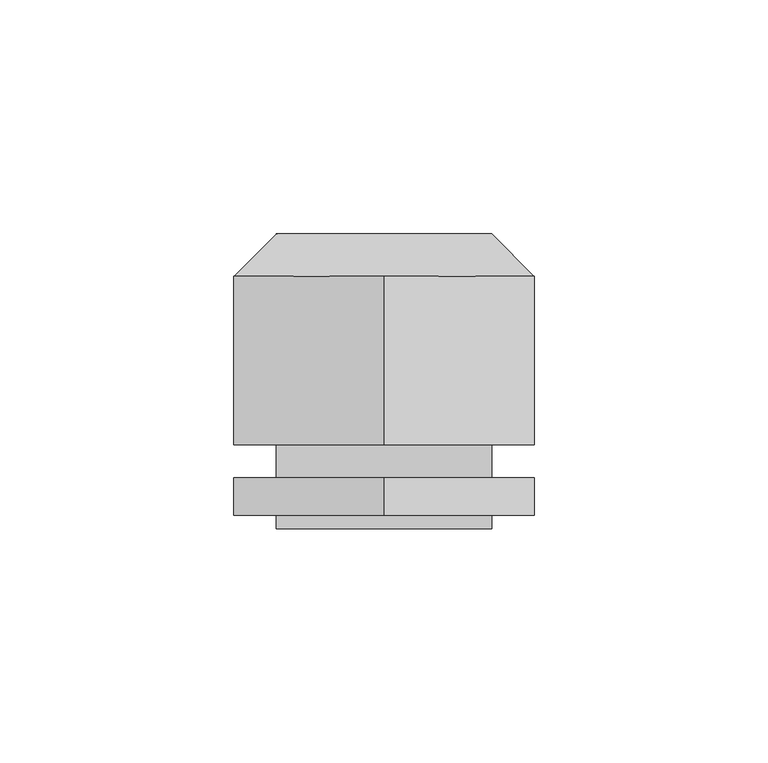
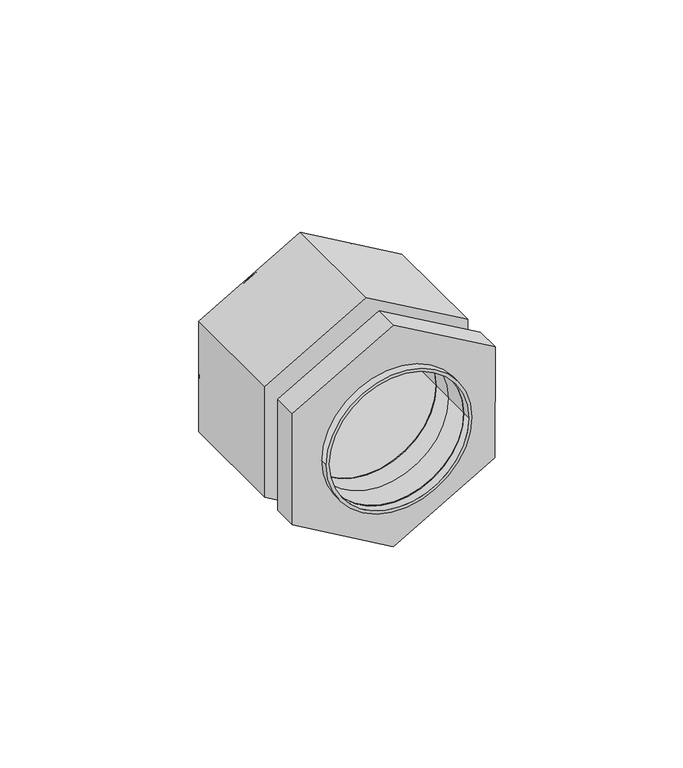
"""IFC4 building model written with IfcOpenShell, lengths in millimetres: cable carrier fitting geometry, Сальник_PGL_D_11-48_IP54 : Сальник PG 36 диаметр проводника 22-32мм IP54."""

from ifc_helpers import new_model, si_unit, point, frame, frame_2d, origin, place, context, project, spatial, polyline, circle_curve, trimmed, segment, composite_curve, outline, extrude, source, transform, mapped, element, save
from ifc_brep_helpers import plane_surface, revolved_surface, advanced_brep


def cable_carrier_fitting_edccf83d(model_context):
    return source(origin(), model_context, "Body", "SolidModel", [
        advanced_brep(
        [(-21.9094864, 0.0, 0.0057257), (-21.9094864, -9.0, 0.0057257), (22.0905136, -9.0, 0.0057257), (22.0905136, 0.0, 0.0057257), (-31.9010286, -9.0, 0.0), (32.0989714, -9.0, 0.0), (-22.9010286, 0.0, 0.0), (23.0989714, 0.0, 0.0)],
        [
            (0, 1),
            (1, 2, circle_curve(frame((0.0905136, -9.0, 0.0057257), z_axis=(0.0, -1.0, 0.0), x_axis=(1.0, 0.0, 0.0)), 22.0)),
            (2, 3),
            (3, 0, circle_curve(frame((0.0905136, 0.0, 0.0057257), z_axis=(0.0, 1.0, 0.0), x_axis=(1.0, 0.0, 0.0)), 22.0)),
            (0, 3, circle_curve(frame((0.0905136, 0.0, 0.0057257), z_axis=(0.0, 1.0, 0.0), x_axis=(1.0, 0.0, 0.0)), 22.0)),
            (2, 1, circle_curve(frame((0.0905136, -9.0, 0.0057257), z_axis=(0.0, -1.0, 0.0), x_axis=(1.0, 0.0, 0.0)), 22.0)),
            (4, 5, circle_curve(frame((0.0989714, -9.0, 0.0), z_axis=(0.0, -1.0, 0.0), x_axis=(-1.0, 0.0, 0.0)), 32.0)),
            (5, 4, circle_curve(frame((0.0989714, -9.0, 0.0), z_axis=(0.0, -1.0, 0.0), x_axis=(1.0, 0.0, 0.0)), 32.0)),
            (6, 7, circle_curve(frame((0.0989714, 0.0, 0.0), z_axis=(0.0, 1.0, 0.0), x_axis=(1.0, 0.0, 0.0)), 23.0)),
            (7, 6, circle_curve(frame((0.0989714, 0.0, 0.0), z_axis=(0.0, 1.0, 0.0), x_axis=(-1.0, 0.0, 0.0)), 23.0)),
            (4, 6),
            (7, 5),
        ],
        [
            revolved_surface(polyline([(22.0905136, -9.0, 0.0057257), (22.0905136, 0.0, 0.0057257)]), (0.0905136, 9.180646, 0.0057257), (0.0, -1.0, 0.0)),
            plane_surface(frame((0.0989714, -9.0, 0.0), z_axis=(0.0, -1.0, 0.0), x_axis=(0.0, 0.0, -1.0))),
            plane_surface(frame((0.0989714, 0.0, 0.0), z_axis=(0.0, 1.0, 0.0), x_axis=(0.0, 0.0, -1.0))),
            revolved_surface(polyline([(23.0989714, 0.0, 0.0), (32.0989714, -9.0, 0.0)]), (0.0989714, 23.0, 0.0), (0.0, -1.0, 0.0)),
            revolved_surface(polyline([(-22.9010286, 0.0, 0.0), (-31.9010286, -9.0, 0.0)]), (0.0989714, 23.0, 0.0), (0.0, -1.0, 0.0)),
        ],
        [
            (0, [[1, 2, 3, 4]]),
            (0, [[-1, 5, -3, 6]]),
            (1, [[7, 8], [-2, -6]]),
            (2, [[9, 10], [-4, -5]]),
            (3, [[-7, 11, -10, 12]]),
            (4, [[-8, -12, -9, -11]]),
        ],
    ),
        extrude(outline(polyline([(-18.4279687, 32.0), (18.5718076, 32.1286479), (37.0348318, 0.0643883), (18.5720313, -32.0), (-18.4279687, -32.0), (-37.0021443, 0.0), (-18.4279687, 32.0)]), holes=[composite_curve([segment(trimmed(circle_curve(frame_2d((0.0057257, 0.0905136)), 22.0), [point((0.0057257, 22.0905136))], [point((0.0057257, -21.9094864))], True, "CARTESIAN"), True, "CONTINUOUS"), segment(trimmed(circle_curve(frame_2d((0.0057257, 0.0905136)), 22.0), [point((0.0057257, -21.9094864))], [point((0.0057257, 22.0905136))], True, "CARTESIAN"), True, "CONTINUOUS")], self_intersect=False)]), frame((0.0, -45.0, 0.0), z_axis=(0.0, 1.0, 0.0), x_axis=(0.0, 0.0, 1.0)), (0.0, 0.0, 1.0), 36.0),
        extrude(outline(polyline([(-18.4279687, 32.0), (18.5718076, 32.1286479), (37.0348318, 0.0643883), (18.5720313, -32.0), (-18.4279687, -32.0), (-37.0021443, 0.0), (-18.4279687, 32.0)]), holes=[composite_curve([segment(trimmed(circle_curve(frame_2d((0.0057257, 0.0905136)), 22.0), [point((0.0057257, 22.0905136))], [point((0.0057257, -21.9094864))], True, "CARTESIAN"), True, "CONTINUOUS"), segment(trimmed(circle_curve(frame_2d((0.0057257, 0.0905136)), 22.0), [point((0.0057257, -21.9094864))], [point((0.0057257, 22.0905136))], True, "CARTESIAN"), True, "CONTINUOUS")], self_intersect=False)]), frame((0.0, -60.1018563, 0.0), z_axis=(0.0, 1.0, 0.0), x_axis=(0.0, 0.0, 1.0)), (0.0, 0.0, 1.0), 8.0),
        extrude(outline(composite_curve([segment(trimmed(circle_curve(frame_2d((0.0032191, 0.0900025)), 23.0), [point((0.0032191, -22.9099975))], [point((0.0032191, 23.0900025))], False, "CARTESIAN"), True, "CONTINUOUS"), segment(trimmed(circle_curve(frame_2d((0.0032191, 0.0900025)), 23.0), [point((0.0032191, 23.0900025))], [point((0.0032191, -22.9099975))], False, "CARTESIAN"), True, "CONTINUOUS")], self_intersect=False), holes=[composite_curve([segment(trimmed(circle_curve(frame_2d((0.0057257, 0.0905136)), 22.0), [point((0.0057257, 22.0905136))], [point((0.0057257, -21.9094864))], True, "CARTESIAN"), True, "CONTINUOUS"), segment(trimmed(circle_curve(frame_2d((0.0057257, 0.0905136)), 22.0), [point((0.0057257, -21.9094864))], [point((0.0057257, 22.0905136))], True, "CARTESIAN"), True, "CONTINUOUS")], self_intersect=False)]), frame((0.0, -63.0, 0.0), z_axis=(0.0, 1.0, 0.0), x_axis=(0.0, 0.0, 1.0)), (0.0, 0.0, 1.0), 63.0),
    ])


if __name__ == "__main__":
    model = new_model("IFC4")
    model_context = context("Model", 3, world=origin())
    ifc_project = project(units=[si_unit("LENGTHUNIT", "METRE", prefix="MILLI")], contexts=[model_context])
    site = spatial("IfcSite", under=ifc_project)
    building = spatial("IfcBuilding", under=site)
    placement = place(None, origin())
    cable_carrier_fitting_shape = cable_carrier_fitting_edccf83d(model_context)
    element("IfcCableCarrierFitting", 1, ObjectType="Сальник_PGL_D_11-48_IP54 : Сальник PG 36 диаметр проводника 22-32мм IP54", at=placement, inside=building, context=model_context, shape_type="MappedRepresentation", body=[
        mapped(cable_carrier_fitting_shape, transform((0.0, 0.0, 0.0), x_axis=(1.0, 0.0, 0.0), y_axis=(0.0, 1.0, 0.0), z_axis=(0.0, 0.0, 1.0))),
    ])
    save(model, "model.ifc")
